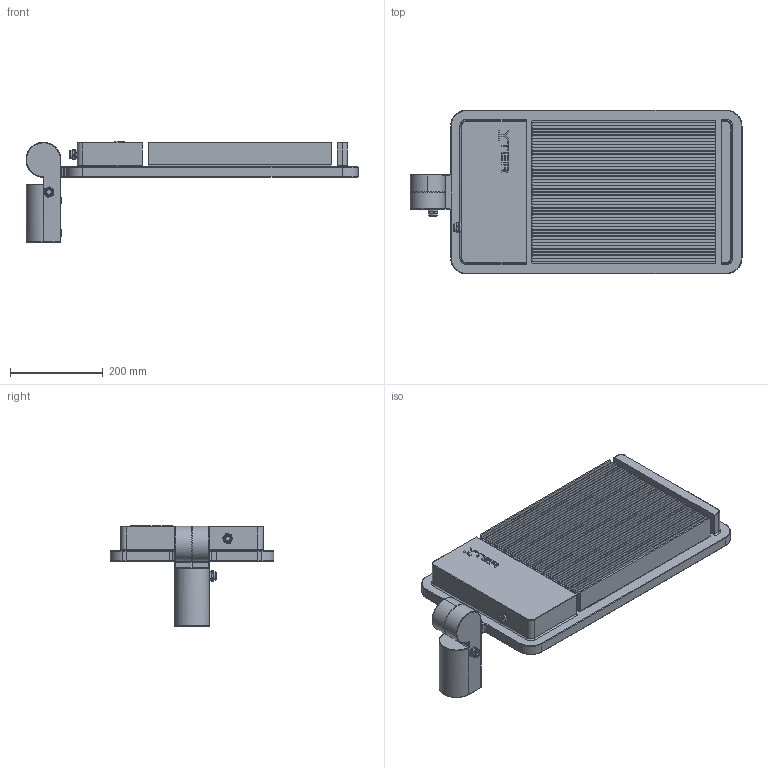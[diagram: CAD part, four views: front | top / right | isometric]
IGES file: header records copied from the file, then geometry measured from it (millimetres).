
Global section: file name: S:\0 YTER LED 2016\3D\Yter\Versi; native system: Rhinoceros ( Mar 28 2013 ); preprocessor: Trout Lake IGES 012 Mar 28 2013; author: YTER LED; organization: 17HYter Nexus; date: 160601.161938; units: millimetre
Bounding box: 714.5 x 352 x 216.51 mm (x, y, z)
Surface area: 1529506.4 mm2 (no closed solid volume)
Topology: 0 solids, 0 shells, 649 faces, 5944 edges, 5940 vertices
Faces by surface type: bspline 649
